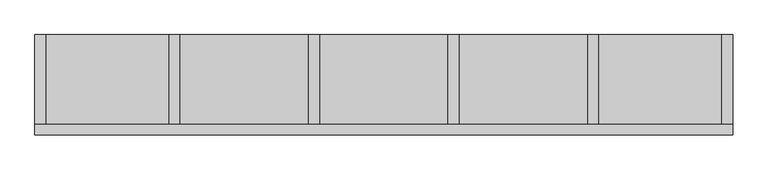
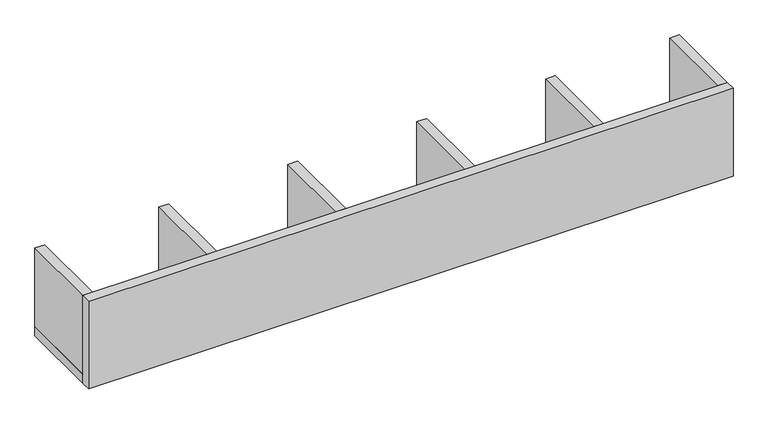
"""IFC4 building model written with IfcOpenShell, lengths in millimetres: furniture geometry, Benno mensola IKEA : Benno Mensola."""

from ifc_helpers import new_model, si_unit, frame, origin, place, context, project, spatial, polyline, outline, extrude, source, transform, mapped, element, save


def furniture_920b33d8(model_context):
    return source(origin(), model_context, "Body", "SweptSolid", [
        extrude(outline(polyline([(570.2197735, 75.0), (-609.7802265, 75.0), (-609.7802265, 93.0), (570.2197735, 93.0), (570.2197735, 75.0)])), frame((0.0, 0.0, 1700.0), z_axis=(0.0, 0.0, 1.0), x_axis=(1.0, 0.0, 0.0)), (0.0, 0.0, 1.0), 170.0),
        extrude(outline(polyline([(570.2197735, 93.0), (552.2197735, 93.0), (552.2197735, 245.0), (570.2197735, 245.0), (570.2197735, 93.0)])), frame((0.0, 0.0, 1718.0), z_axis=(0.0, 0.0, 1.0), x_axis=(1.0, 0.0, 0.0)), (0.0, 0.0, 1.0), 152.0),
        extrude(outline(polyline([(343.2197735, 93.0), (325.2197735, 93.0), (325.2197735, 245.0), (343.2197735, 245.0), (343.2197735, 93.0)])), frame((0.0, 0.0, 1718.0), z_axis=(0.0, 0.0, 1.0), x_axis=(1.0, 0.0, 0.0)), (0.0, 0.0, 1.0), 152.0),
        extrude(outline(polyline([(107.2197735, 93.0), (89.2197735, 93.0), (89.2197735, 245.0), (107.2197735, 245.0), (107.2197735, 93.0)])), frame((0.0, 0.0, 1718.0), z_axis=(0.0, 0.0, 1.0), x_axis=(1.0, 0.0, 0.0)), (0.0, 0.0, 1.0), 152.0),
        extrude(outline(polyline([(-128.7802265, 93.0), (-146.7802265, 93.0), (-146.7802265, 245.0), (-128.7802265, 245.0), (-128.7802265, 93.0)])), frame((0.0, 0.0, 1718.0), z_axis=(0.0, 0.0, 1.0), x_axis=(1.0, 0.0, 0.0)), (0.0, 0.0, 1.0), 152.0),
        extrude(outline(polyline([(-364.7802265, 93.0), (-382.7802265, 93.0), (-382.7802265, 245.0), (-364.7802265, 245.0), (-364.7802265, 93.0)])), frame((0.0, 0.0, 1718.0), z_axis=(0.0, 0.0, 1.0), x_axis=(1.0, 0.0, 0.0)), (0.0, 0.0, 1.0), 152.0),
        extrude(outline(polyline([(-591.7802265, 93.0), (-609.7802265, 93.0), (-609.7802265, 245.0), (-591.7802265, 245.0), (-591.7802265, 93.0)])), frame((0.0, 0.0, 1718.0), z_axis=(0.0, 0.0, 1.0), x_axis=(1.0, 0.0, 0.0)), (0.0, 0.0, 1.0), 152.0),
        extrude(outline(polyline([(570.2197735, 93.0), (-609.7802265, 93.0), (-609.7802265, 245.0), (570.2197735, 245.0), (570.2197735, 93.0)])), frame((0.0, 0.0, 1700.0), z_axis=(0.0, 0.0, 1.0), x_axis=(1.0, 0.0, 0.0)), (0.0, 0.0, 1.0), 18.0),
    ])


if __name__ == "__main__":
    model = new_model("IFC4")
    model_context = context("Model", 3, world=origin())
    ifc_project = project(units=[si_unit("LENGTHUNIT", "METRE", prefix="MILLI")], contexts=[model_context])
    site = spatial("IfcSite", under=ifc_project)
    building = spatial("IfcBuilding", under=site)
    placement = place(None, origin())
    furniture_shape = furniture_920b33d8(model_context)
    element("IfcFurniture", 1, ObjectType="Benno mensola IKEA : Benno Mensola", at=placement, inside=building, context=model_context, shape_type="MappedRepresentation", body=[
        mapped(furniture_shape, transform((0.0, 0.0, 0.0), x_axis=(1.0, 0.0, 0.0), y_axis=(0.0, 1.0, 0.0), z_axis=(0.0, 0.0, 1.0))),
    ])
    save(model, "model.ifc")
